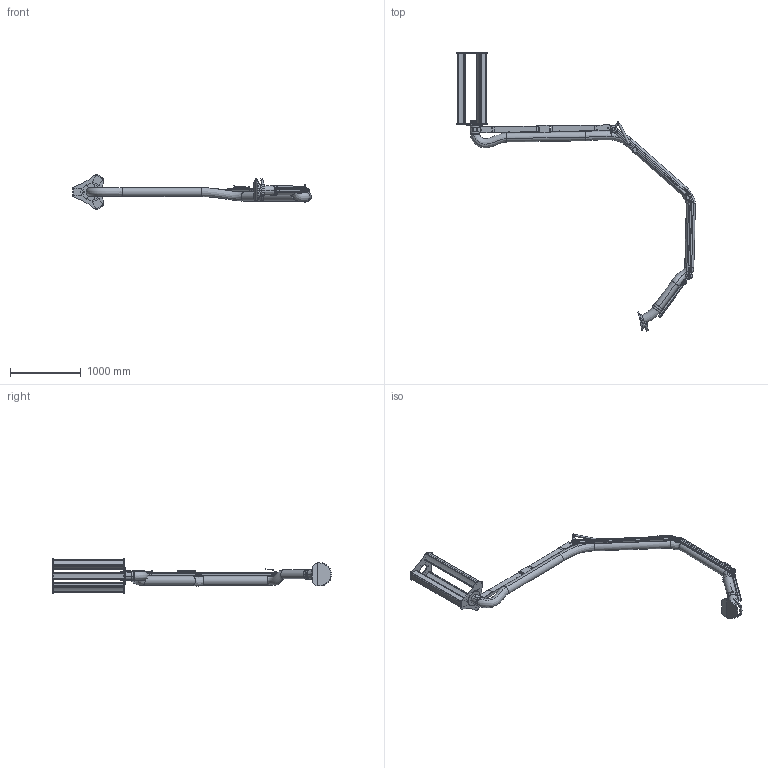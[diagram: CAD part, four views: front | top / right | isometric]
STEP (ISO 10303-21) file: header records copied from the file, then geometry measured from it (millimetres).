
FILE_DESCRIPTION((''),'2;1');
FILE_NAME('100-6342-01','2018-10-23T',('Tomas Bellgran'),(''),'CREO PARAMETRIC BY PTC INC, 2016130','CREO PARAMETRIC BY PTC INC, 2016130','');
FILE_SCHEMA(('AUTOMOTIVE_DESIGN { 1 0 10303 214 1 1 1 1 }'));
Length unit declared in the file: millimetre
Products named in the file (66): G_PRB_SWIVEL_LIGHT; 135-641_PRB_SVIVEL_BRACKET; 135-642_PRB_SVIVEL; G_PRB_SVIVEL; 100-5451; G_PR_BRACKET_INSIDE; 100-6305-2; 100-5454-01; G_Z-LINK_PR_LIGHT; 100-6309; 100-5454-02; 100-5414-01; 102713; 100-5453; 102684; 100-5404-L_LIGHT; 100-5404-R_LIGHT; 100-5404; 100-5506_L_LIGHT; 100-5506_R_LIGHT; G_LOWER_JOINT_MALE; 100-5502; 100-5918_LIGHT; 100-5914; 100-5913; 100-5915; 100-6344; 102682; 100-5512-L_LIGHT; 100-512-R_LIGHT; 100-5512; 100-5907; 100-5905; 100226; 100229_WELD-REF; 100229; 100-5516; 100-5911; 100-5466; 100-6346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
Assembly tree (73 placements, depth 5):
  100-6342-01
    G_PRB_SVIVEL
      G_PRB_SWIVEL_LIGHT
      135-641_PRB_SVIVEL_BRACKET
      135-642_PRB_SVIVEL
    100-5454-01
      100-5451
      G_PR_BRACKET_INSIDE
      100-6305-2
    100-6309
      G_Z-LINK_PR_LIGHT
    100-5454-02
      100-5451
      G_PR_BRACKET_INSIDE
      100-6305-2
    100-5453
      100-5414-01
      102713
    100-6344
      102684
      100-5404
        100-5404-L_LIGHT
        100-5404-R_LIGHT
      100-5502
        G_LOWER_JOINT_MALE
          100-5506_L_LIGHT
          100-5506_R_LIGHT
      100-5918_LIGHT
      100-5915
        100-5914
        100-5913
    100-6346
      102682
      100-5512
        100-5512-L_LIGHT
        100-512-R_LIGHT
      100-5404
        100-5404-L_LIGHT
        100-5404-R_LIGHT
      100229
        100-5905
          100-5907
        100226
        100229_WELD-REF
      100-5466
        100-5516
        100-5911
    100-5157
      100-5156  x2
    100-6345
      102678
      100-5404
        100-5404-L_LIGHT
        100-5404-R_LIGHT
    100-5457
      100-5456
      102723
    102810
      GAS_SPRING_PULL_BANSBACH_TUBE
      GAS_SPRING_PULL_BANSBACH_CYLB
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Bounding box: 3374.63 x 3934.72 x 495.71 mm (x, y, z)
Volume: 54717235.8 mm3; surface area: 6034833.7 mm2
Topology: 50 solids, 57 shells, 1372 faces, 3357 edges, 2115 vertices
Faces by surface type: plane 556, cylinder 479, cone 161, bspline 79, torus 74, sphere 19, extrusion 4
Entity records: 60775 total; most frequent: CARTESIAN_POINT 13173, DIRECTION 6106, ORIENTED_EDGE 5470, EDGE_CURVE 2751, PROPERTY_DEFINITION 2670, REPRESENTATION 2623, PROPERTY_DEFINITION_REPRESENTATION 2623, AXIS2_PLACEMENT_3D 2365
